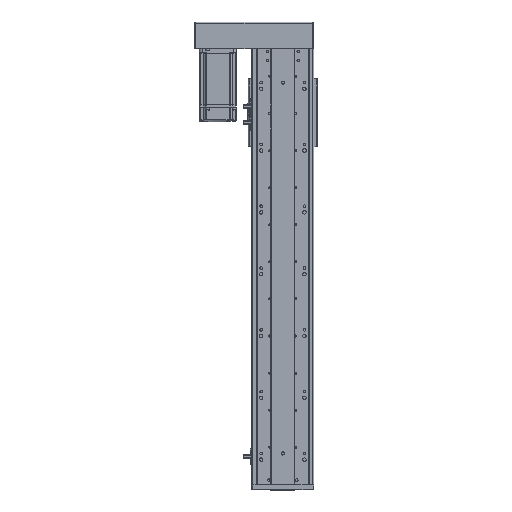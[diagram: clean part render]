
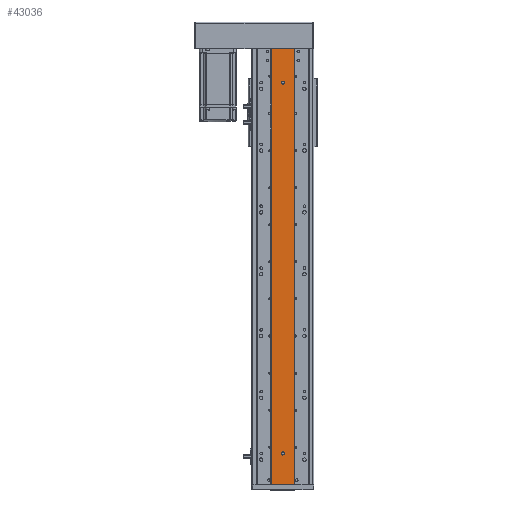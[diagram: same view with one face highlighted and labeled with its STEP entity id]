
A CAD part, top view. The second image highlights one B-rep face of the part: STEP entity #43036.
In plain terms, the highlighted planar face has unit normal (0, 0, 1).
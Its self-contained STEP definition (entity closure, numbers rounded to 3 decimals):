
#9008 = CARTESIAN_POINT ( 'NONE',  ( -10626.079, 51., -17040.86 ) ) ;
#9023 = DIRECTION ( 'NONE',  ( 0., 0., -1. ) ) ;
#9025 = DIRECTION ( 'NONE',  ( -1., 0., 0. ) ) ;
#9136 = DIRECTION ( 'NONE',  ( -1., 0., 0. ) ) ;
#9138 = CARTESIAN_POINT ( 'NONE',  ( -10626.079, 651., -17040.86 ) ) ;
#9153 = DIRECTION ( 'NONE',  ( 0., 0., -1. ) ) ;
#10063 = FACE_BOUND ( 'NONE', #15371, .T. ) ;
#10085 = FACE_BOUND ( 'NONE', #15369, .T. ) ;
#10105 = FACE_OUTER_BOUND ( 'NONE', #15364, .T. ) ;
#11409 = DIRECTION ( 'NONE',  ( -1., 0., 0. ) ) ;
#11431 = PLANE ( 'NONE',  #12015 ) ;
#11435 = DIRECTION ( 'NONE',  ( 0., 0., -1. ) ) ;
#11445 = CARTESIAN_POINT ( 'NONE',  ( -10645.079, 706., -17040.86 ) ) ;
#12015 = AXIS2_PLACEMENT_3D ( 'NONE', #11445, #11435, #11409 ) ;
#15364 = EDGE_LOOP ( 'NONE', ( #17265, #47946, #47913, #47919 ) ) ;
#15369 = EDGE_LOOP ( 'NONE', ( #47915, #47941 ) ) ;
#15371 = EDGE_LOOP ( 'NONE', ( #47929, #17269 ) ) ;
#17265 = ORIENTED_EDGE ( 'NONE', *, *, #21944, .T. ) ;
#17269 = ORIENTED_EDGE ( 'NONE', *, *, #21890, .T. ) ;
#17494 = CIRCLE ( 'NONE', #28376, 2.5 ) ;
#17567 = CIRCLE ( 'NONE', #28435, 2.5 ) ;
#20394 = EDGE_CURVE ( 'NONE', #50561, #50519, #17494, .T. ) ;
#20443 = EDGE_CURVE ( 'NONE', #50566, #50539, #17567, .T. ) ;
#21340 = CARTESIAN_POINT ( 'NONE',  ( -10607.079, 0., -17040.86 ) ) ;
#21401 = CARTESIAN_POINT ( 'NONE',  ( -10645.079, 0., -17040.86 ) ) ;
#21460 = CARTESIAN_POINT ( 'NONE',  ( -10645.079, 706., -17040.86 ) ) ;
#21461 = CARTESIAN_POINT ( 'NONE',  ( -10607.079, 706., -17040.86 ) ) ;
#21890 = EDGE_CURVE ( 'NONE', #50539, #50566, #44111, .T. ) ;
#21944 = EDGE_CURVE ( 'NONE', #35479, #35487, #44132, .T. ) ;
#21950 = EDGE_CURVE ( 'NONE', #35546, #35554, #44122, .T. ) ;
#21982 = EDGE_CURVE ( 'NONE', #35546, #35479, #44117, .T. ) ;
#22050 = EDGE_CURVE ( 'NONE', #50519, #50561, #44187, .T. ) ;
#22064 = EDGE_CURVE ( 'NONE', #35554, #35487, #44268, .T. ) ;
#28376 = AXIS2_PLACEMENT_3D ( 'NONE', #9008, #9023, #9025 ) ;
#28435 = AXIS2_PLACEMENT_3D ( 'NONE', #9138, #9153, #9136 ) ;
#28868 = AXIS2_PLACEMENT_3D ( 'NONE', #48790, #48807, #48793 ) ;
#28916 = AXIS2_PLACEMENT_3D ( 'NONE', #48995, #49010, #48998 ) ;
#35479 = VERTEX_POINT ( 'NONE', #21401 ) ;
#35487 = VERTEX_POINT ( 'NONE', #21340 ) ;
#35546 = VERTEX_POINT ( 'NONE', #21460 ) ;
#35554 = VERTEX_POINT ( 'NONE', #21461 ) ;
#40483 = CARTESIAN_POINT ( 'NONE',  ( -10623.579, 651., -17040.86 ) ) ;
#40492 = CARTESIAN_POINT ( 'NONE',  ( -10628.579, 51., -17040.86 ) ) ;
#40525 = CARTESIAN_POINT ( 'NONE',  ( -10628.579, 651., -17040.86 ) ) ;
#40574 = CARTESIAN_POINT ( 'NONE',  ( -10623.579, 51., -17040.86 ) ) ;
#43036 = ADVANCED_FACE ( 'NONE', ( #10063, #10085, #10105 ), #11431, .F. ) ;
#44111 = CIRCLE ( 'NONE', #28868, 2.5 ) ;
#44117 = LINE ( 'NONE', #48922, #44128 ) ;
#44122 = LINE ( 'NONE', #48877, #44125 ) ;
#44125 = VECTOR ( 'NONE', #48878, 1000. ) ;
#44128 = VECTOR ( 'NONE', #48920, 1000. ) ;
#44132 = LINE ( 'NONE', #48836, #44156 ) ;
#44156 = VECTOR ( 'NONE', #48887, 1000. ) ;
#44187 = CIRCLE ( 'NONE', #28916, 2.5 ) ;
#44242 = VECTOR ( 'NONE', #49047, 1000. ) ;
#44268 = LINE ( 'NONE', #49023, #44242 ) ;
#47913 = ORIENTED_EDGE ( 'NONE', *, *, #21950, .F. ) ;
#47915 = ORIENTED_EDGE ( 'NONE', *, *, #20394, .T. ) ;
#47919 = ORIENTED_EDGE ( 'NONE', *, *, #21982, .T. ) ;
#47929 = ORIENTED_EDGE ( 'NONE', *, *, #20443, .T. ) ;
#47941 = ORIENTED_EDGE ( 'NONE', *, *, #22050, .T. ) ;
#47946 = ORIENTED_EDGE ( 'NONE', *, *, #22064, .F. ) ;
#48790 = CARTESIAN_POINT ( 'NONE',  ( -10626.079, 651., -17040.86 ) ) ;
#48793 = DIRECTION ( 'NONE',  ( -1., 0., 0. ) ) ;
#48807 = DIRECTION ( 'NONE',  ( 0., 0., -1. ) ) ;
#48836 = CARTESIAN_POINT ( 'NONE',  ( -10645.079, 0., -17040.86 ) ) ;
#48877 = CARTESIAN_POINT ( 'NONE',  ( -10645.079, 706., -17040.86 ) ) ;
#48878 = DIRECTION ( 'NONE',  ( 1., 0., 0. ) ) ;
#48887 = DIRECTION ( 'NONE',  ( 1., 0., 0. ) ) ;
#48920 = DIRECTION ( 'NONE',  ( 0., -1., 0. ) ) ;
#48922 = CARTESIAN_POINT ( 'NONE',  ( -10645.079, 706., -17040.86 ) ) ;
#48995 = CARTESIAN_POINT ( 'NONE',  ( -10626.079, 51., -17040.86 ) ) ;
#48998 = DIRECTION ( 'NONE',  ( -1., 0., 0. ) ) ;
#49010 = DIRECTION ( 'NONE',  ( 0., 0., -1. ) ) ;
#49023 = CARTESIAN_POINT ( 'NONE',  ( -10607.079, 706., -17040.86 ) ) ;
#49047 = DIRECTION ( 'NONE',  ( 0., -1., 0. ) ) ;
#50519 = VERTEX_POINT ( 'NONE', #40492 ) ;
#50539 = VERTEX_POINT ( 'NONE', #40525 ) ;
#50561 = VERTEX_POINT ( 'NONE', #40574 ) ;
#50566 = VERTEX_POINT ( 'NONE', #40483 ) ;
